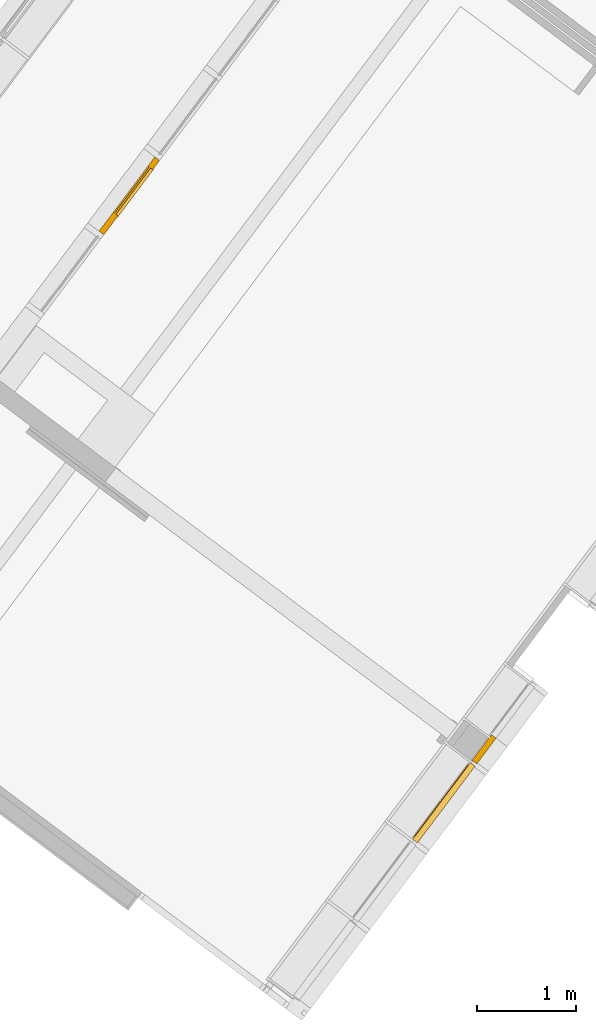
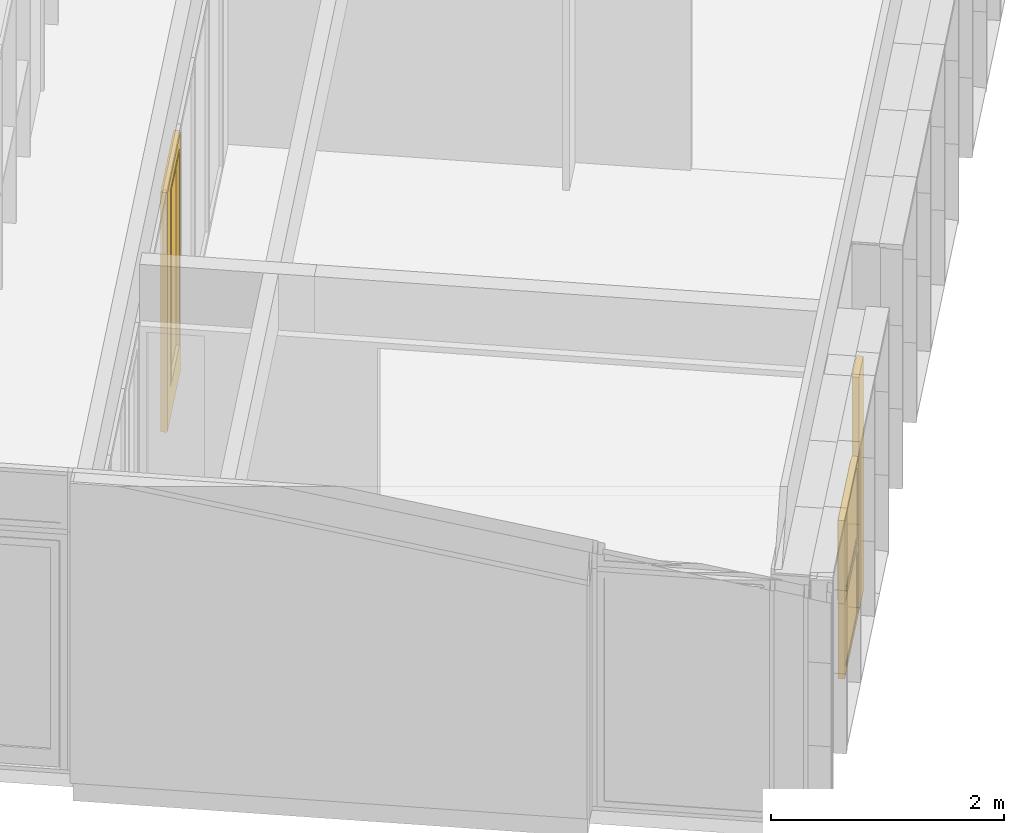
# One storey, part 181 of 243: 2 doors, 2 windows, 2 elements without a shape of their own.
"""IFC2X3 building model written with IfcOpenShell, lengths in metres."""

from ifc_helpers import new_model, entity, si_unit, converted_unit, derived_unit, direction, frame, origin, origin_2d_with_axis, place, context, subcontext, project, spatial, rectangle, extrude, faceted_brep, source, transform, mapped, material, material_list, type_object, type_shapes, element, aggregate, save


model = new_model("IFC2X3")

# Units and contexts
model_context = context("Model", 3, precision=1e-05, world=origin(), true_north=direction((6.123031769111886e-17, 1.0)))
body_context = subcontext(model_context, "Body", "Model", "MODEL_VIEW")
ifc_project = project(units=[si_unit("LENGTHUNIT", "METRE"), si_unit("AREAUNIT", "SQUARE_METRE"), si_unit("VOLUMEUNIT", "CUBIC_METRE"), converted_unit("PLANEANGLEUNIT", "DEGREE", entity("IfcRatioMeasure", 0.017453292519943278), si_unit("PLANEANGLEUNIT", "RADIAN"), dimensions=[0, 0, 0, 0, 0, 0, 0]), si_unit("MASSUNIT", "GRAM", prefix="KILO"), derived_unit("MASSDENSITYUNIT", [(si_unit("MASSUNIT", "GRAM", prefix="KILO"), 1), (si_unit("LENGTHUNIT", "METRE"), -3)]), derived_unit("IONCONCENTRATIONUNIT", [(si_unit("MASSUNIT", "GRAM", prefix="KILO"), 1), (si_unit("LENGTHUNIT", "METRE"), -3)]), derived_unit("MOMENTOFINERTIAUNIT", [(si_unit("LENGTHUNIT", "METRE"), 4)]), si_unit("TIMEUNIT", "SECOND"), si_unit("FREQUENCYUNIT", "HERTZ"), si_unit("THERMODYNAMICTEMPERATUREUNIT", "DEGREE_CELSIUS"), derived_unit("THERMALTRANSMITTANCEUNIT", [(si_unit("MASSUNIT", "GRAM", prefix="KILO"), 1), (si_unit("THERMODYNAMICTEMPERATUREUNIT", "KELVIN"), -1), (si_unit("TIMEUNIT", "SECOND"), -3)]), derived_unit("THERMALCONDUCTANCEUNIT", [(si_unit("MASSUNIT", "GRAM", prefix="KILO"), 1), (si_unit("THERMODYNAMICTEMPERATUREUNIT", "KELVIN"), -1), (si_unit("TIMEUNIT", "SECOND"), -3), (si_unit("LENGTHUNIT", "METRE"), 1)]), derived_unit("VOLUMETRICFLOWRATEUNIT", [(si_unit("LENGTHUNIT", "METRE"), 3), (si_unit("TIMEUNIT", "SECOND"), -1)]), derived_unit("MASSFLOWRATEUNIT", [(si_unit("MASSUNIT", "GRAM", prefix="KILO"), 1), (si_unit("TIMEUNIT", "SECOND"), -1)]), derived_unit("ROTATIONALFREQUENCYUNIT", [(si_unit("TIMEUNIT", "SECOND"), -1)]), si_unit("ELECTRICCURRENTUNIT", "AMPERE"), si_unit("ELECTRICVOLTAGEUNIT", "VOLT"), si_unit("POWERUNIT", "WATT"), si_unit("FORCEUNIT", "NEWTON", prefix="KILO"), si_unit("ILLUMINANCEUNIT", "LUX"), si_unit("LUMINOUSFLUXUNIT", "LUMEN"), si_unit("LUMINOUSINTENSITYUNIT", "CANDELA"), derived_unit("USERDEFINED", [(si_unit("MASSUNIT", "GRAM", prefix="KILO"), -1), (si_unit("LENGTHUNIT", "METRE"), -2), (si_unit("TIMEUNIT", "SECOND"), 3), (si_unit("LUMINOUSFLUXUNIT", "LUMEN"), 1)]), derived_unit("USERDEFINED", [(si_unit("MASSUNIT", "GRAM", prefix="KILO"), 1), (si_unit("TIMEUNIT", "SECOND"), -3), (si_unit("LENGTHUNIT", "METRE"), 3), (si_unit("ELECTRICCURRENTUNIT", "AMPERE"), -2)]), derived_unit("SOUNDPOWERUNIT", [(si_unit("MASSUNIT", "GRAM", prefix="KILO"), 1), (si_unit("TIMEUNIT", "SECOND"), -3), (si_unit("LENGTHUNIT", "METRE"), 2)]), derived_unit("SOUNDPRESSUREUNIT", [(si_unit("MASSUNIT", "GRAM", prefix="KILO"), 1), (si_unit("LENGTHUNIT", "METRE"), -1), (si_unit("TIMEUNIT", "SECOND"), -2)]), derived_unit("LINEARVELOCITYUNIT", [(si_unit("LENGTHUNIT", "METRE"), 1), (si_unit("TIMEUNIT", "SECOND"), -1)]), si_unit("PRESSUREUNIT", "PASCAL"), derived_unit("USERDEFINED", [(si_unit("MASSUNIT", "GRAM", prefix="KILO"), 1), (si_unit("LENGTHUNIT", "METRE"), -2), (si_unit("TIMEUNIT", "SECOND"), -2)]), derived_unit("LINEARFORCEUNIT", [(si_unit("MASSUNIT", "GRAM", prefix="KILO"), 1), (si_unit("TIMEUNIT", "SECOND"), -2)]), derived_unit("PLANARFORCEUNIT", [(si_unit("MASSUNIT", "GRAM", prefix="KILO"), 1), (si_unit("LENGTHUNIT", "METRE"), -1), (si_unit("TIMEUNIT", "SECOND"), -2)]), derived_unit("SPECIFICHEATCAPACITYUNIT", [(si_unit("THERMODYNAMICTEMPERATUREUNIT", "KELVIN"), -1), (si_unit("LENGTHUNIT", "METRE"), 2), (si_unit("TIMEUNIT", "SECOND"), -2)]), derived_unit("HEATINGVALUEUNIT", [(si_unit("LENGTHUNIT", "METRE"), 2), (si_unit("TIMEUNIT", "SECOND"), -2)]), derived_unit("VAPORPERMEABILITYUNIT", [(si_unit("LENGTHUNIT", "METRE"), -1), (si_unit("TIMEUNIT", "SECOND"), 1)]), derived_unit("DYNAMICVISCOSITYUNIT", [(si_unit("MASSUNIT", "GRAM", prefix="KILO"), 1), (si_unit("TIMEUNIT", "SECOND"), -1), (si_unit("LENGTHUNIT", "METRE"), -1)]), derived_unit("THERMALEXPANSIONCOEFFICIENTUNIT", [(si_unit("THERMODYNAMICTEMPERATUREUNIT", "KELVIN"), -1)]), derived_unit("MODULUSOFELASTICITYUNIT", [(si_unit("MASSUNIT", "GRAM", prefix="KILO"), 1), (si_unit("LENGTHUNIT", "METRE"), -1), (si_unit("TIMEUNIT", "SECOND"), -2)]), derived_unit("ISOTHERMALMOISTURECAPACITYUNIT", [(si_unit("LENGTHUNIT", "METRE"), 3), (si_unit("MASSUNIT", "GRAM", prefix="KILO"), -1)]), derived_unit("MOISTUREDIFFUSIVITYUNIT", [(si_unit("TIMEUNIT", "SECOND"), -1), (si_unit("LENGTHUNIT", "METRE"), 2)])], contexts=[model_context])

# Site, building, storey
site_placement = place(None, frame((0.0, 0.0, 235.0), z_axis=(0.0, 0.0, 1.0), x_axis=(-0.7996477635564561, 0.6004693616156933, 0.0)))
site = spatial("IfcSite", under=ifc_project, at=site_placement, Name="Default", CompositionType="ELEMENT")
building_placement = place(site_placement, origin())
building = spatial("IfcBuilding", under=site, at=building_placement, CompositionType="ELEMENT")
storey_placement = place(building_placement, origin())
storey = spatial("IfcBuildingStorey", under=building, at=storey_placement, Name="P0- Escola", CompositionType="ELEMENT", Elevation=0.0)

# Curtain wall, door
curtain_wall_type_1 = type_object("IfcCurtainWallType", Name="Muro cortina:MC- INT- a1", PredefinedType="NOTDEFINED")
curtain_wall_1_placement = place(storey_placement, origin())
curtain_wall_1 = element("IfcCurtainWall", 1, at=curtain_wall_1_placement, inside=storey, type_object=curtain_wall_type_1, Name="Muro cortina:MC- INT- a1", ObjectType="Muro cortina:MC- INT- a1")
ifc_material_1 = material(Name="_Fusta massisa- T1")
ifc_material_2 = material(Name="_Vidre")
ifc_material_list_1 = material_list([ifc_material_1, ifc_material_2])
door_style_1 = type_object("IfcDoorStyle", Name="MC- Fusta- conjunt porta:MC- Fusta- conjunt Porta aules", ConstructionType="NOTDEFINED", OperationType="NOTDEFINED", ParameterTakesPrecedence=False, Sizeable=False, material=ifc_material_list_1)
shared_shape_1 = source(origin(), body_context, "Body", "Brep", [
    faceted_brep([(-0.24500000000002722, -0.04499999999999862, 2.3950000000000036), (-0.24500000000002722, -0.014999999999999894, 2.3950000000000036), (-0.24500000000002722, -0.01499999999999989, 0.3299999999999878), (-0.24500000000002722, -0.04499999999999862, 0.3299999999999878), (0.37000000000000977, -0.01499999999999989, 0.3299999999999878), (0.37000000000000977, -0.04499999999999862, 0.3299999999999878), (0.37000000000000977, -0.01499999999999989, 2.3950000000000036), (0.37000000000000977, -0.04499999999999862, 2.3950000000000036), (-0.23000000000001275, -0.014999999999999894, 2.380000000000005), (-0.23000000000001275, -0.014999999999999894, 0.3449999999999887), (0.3549999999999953, -0.014999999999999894, 0.3449999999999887), (0.3549999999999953, -0.014999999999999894, 2.380000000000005), (-0.23000000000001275, -0.04499999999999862, 2.380000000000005), (0.3549999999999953, -0.04499999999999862, 2.380000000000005), (0.3549999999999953, -0.04499999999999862, 0.3449999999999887), (-0.23000000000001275, -0.04499999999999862, 0.3449999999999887)], [[[0, 1, 2, 3]], [[3, 2, 4, 5]], [[5, 4, 6, 7]], [[8, 9, 10, 11], [1, 6, 4, 2]], [[12, 13, 14, 15], [0, 3, 5, 7]], [[15, 9, 8, 12]], [[14, 10, 9, 15]], [[13, 11, 10, 14]], [[7, 6, 1, 0]], [[12, 8, 11, 13]]], outer=[[True], [True], [True], [False, True], [False, True], [True], [True], [True], [True], [True]]),
    faceted_brep([(-0.4399999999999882, 0.01999999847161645, 0.0), (0.4399999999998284, 0.019999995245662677, 0.0), (0.4399999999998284, -0.010000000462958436, 0.0), (0.4549999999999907, -0.010000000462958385, 0.0), (0.4549999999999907, -0.0399999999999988, 0.0), (-0.45500000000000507, -0.03999999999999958, 0.0), (-0.45500000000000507, -0.010000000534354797, 0.0), (-0.4399999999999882, -0.010000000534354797, 0.0), (-0.45500000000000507, -0.03999999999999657, 2.5050000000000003), (0.4549999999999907, -0.03999999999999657, 2.5050000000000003), (-0.2450000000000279, -0.039999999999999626, 0.3300000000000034), (-0.2450000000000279, -0.040000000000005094, 2.394999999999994), (0.3700000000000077, -0.0399999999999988, 2.394999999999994), (0.3700000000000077, -0.039999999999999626, 0.3300000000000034), (-0.4550000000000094, -0.010000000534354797, 2.5050000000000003), (0.4549999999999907, -0.010000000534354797, 2.5050000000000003), (-0.4399999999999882, 0.019999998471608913, 2.4899999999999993), (-0.4399999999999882, -0.010000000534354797, 2.4899999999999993), (0.4399999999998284, -0.010000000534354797, 2.4899999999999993), (0.4399999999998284, 0.019999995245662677, 2.4899999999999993), (0.3549999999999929, 0.019999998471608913, 0.3450000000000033), (0.3549999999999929, 0.019999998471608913, 2.379999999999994), (-0.2300000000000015, 0.019999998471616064, 2.379999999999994), (-0.2300000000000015, 0.019999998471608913, 0.3450000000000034), (-0.2300000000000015, 0.005000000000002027, 0.3450000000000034), (0.3549999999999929, 0.005000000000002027, 0.3450000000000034), (-0.2300000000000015, 0.005000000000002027, 2.379999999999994), (0.3549999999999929, 0.004999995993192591, 2.379999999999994), (0.3700000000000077, 0.005000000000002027, 0.3300000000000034), (0.3700000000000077, 0.005000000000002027, 2.394999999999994), (-0.24500000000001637, 0.005000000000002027, 2.394999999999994), (-0.2450000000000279, 0.005000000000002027, 0.3300000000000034), (-0.24500000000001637, 0.004999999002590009, 0.3300000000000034), (-0.24500000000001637, 0.004999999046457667, 2.394999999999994), (0.3549999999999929, 0.019999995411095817, 2.379999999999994), (-0.2300000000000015, 0.004999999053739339, 2.379999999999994), (0.3700000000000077, 0.004999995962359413, 2.394999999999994)], [[[0, 1, 2, 3, 4, 5, 6, 7]], [[8, 5, 4, 9], [10, 11, 12, 13]], [[8, 14, 6, 5]], [[15, 9, 4, 3]], [[16, 0, 7, 17]], [[14, 15, 3, 2, 18, 17, 7, 6]], [[18, 2, 1, 19]], [[20, 21, 22, 23], [16, 19, 1, 0]], [[23, 24, 25, 20]], [[23, 22, 26, 24]], [[25, 27, 21, 20]], [[24, 26, 27, 25], [28, 29, 30, 31]], [[13, 28, 32, 10]], [[31, 33, 11, 10]], [[13, 12, 29, 28]], [[9, 15, 14, 8]], [[17, 18, 19, 16]], [[34, 27, 35, 22]], [[11, 30, 36, 12]]], outer=[[True], [True, False], [True], [True], [True], [True], [True], [False, True], [True], [True], [True], [False, True], [True], [True], [True], [True], [True], [True], [True]]),
    faceted_brep([(0.3700000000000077, 0.004999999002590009, 0.3300000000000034), (0.3700000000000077, -0.0149999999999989, 0.3300000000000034), (-0.24500000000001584, -0.014999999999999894, 0.3300000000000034), (-0.24500000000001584, 0.004999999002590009, 0.3300000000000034), (0.3700000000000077, 0.004999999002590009, 2.3950000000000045), (-0.24500000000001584, 0.004999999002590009, 2.3950000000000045), (-0.24500000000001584, -0.014999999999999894, 2.3950000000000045), (0.3700000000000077, -0.0149999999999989, 2.3950000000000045)], [[[0, 1, 2, 3]], [[4, 0, 3, 5]], [[5, 3, 2, 6]], [[6, 2, 1, 7]], [[7, 1, 0, 4]], [[4, 5, 6, 7]]]),
    faceted_brep([(-0.46500000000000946, -0.03999999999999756, 0.0), (-0.46500000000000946, -0.035999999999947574, 0.0), (-0.469999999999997, -0.035999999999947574, 0.0), (-0.469999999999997, 0.016000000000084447, 0.0), (-0.46500000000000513, 0.016000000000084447, 0.0), (-0.46500000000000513, 0.02000000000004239, 0.0), (-0.44000000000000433, 0.02000000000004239, 0.0), (-0.44000000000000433, -0.00999999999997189, 0.0), (-0.4550000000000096, -0.00999999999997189, 0.0), (-0.4550000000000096, -0.03999999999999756, 0.0), (-0.45500000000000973, -0.03999999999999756, 2.5050000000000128), (0.45500000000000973, -0.03999999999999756, 2.5050000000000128), (0.45500000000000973, -0.03999999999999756, 0.0), (0.46500000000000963, -0.03999999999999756, 0.0), (0.46500000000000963, -0.03999999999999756, 2.5150000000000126), (-0.4650000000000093, -0.03999999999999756, 2.515000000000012), (-0.4550000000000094, -0.00999999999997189, 2.5050000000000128), (-0.4400000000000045, -0.00999999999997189, 2.4900000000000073), (0.4400000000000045, -0.00999999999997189, 2.4900000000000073), (0.4400000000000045, -0.00999999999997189, 0.0), (0.45500000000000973, -0.00999999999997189, 0.0), (0.45500000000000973, -0.00999999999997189, 2.5050000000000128), (-0.4400000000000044, 0.02000000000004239, 2.4900000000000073), (-0.4650000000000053, 0.02000000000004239, 2.515000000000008), (0.4650000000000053, 0.02000000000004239, 2.515000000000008), (0.4650000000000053, 0.02000000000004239, 0.0), (0.4400000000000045, 0.02000000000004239, 0.0), (0.4400000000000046, 0.02000000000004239, 2.4900000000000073), (-0.46500000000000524, 0.016000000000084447, 2.515000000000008), (-0.4699999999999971, 0.016000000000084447, 2.52), (0.4699999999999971, 0.016000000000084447, 2.52), (0.4699999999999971, 0.016000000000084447, 0.0), (0.4650000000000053, 0.016000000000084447, 0.0), (0.4650000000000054, 0.016000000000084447, 2.515000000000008), (-0.46999999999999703, -0.035999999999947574, 2.52), (-0.46500000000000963, -0.035999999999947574, 2.5150000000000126), (0.46500000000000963, -0.035999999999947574, 2.5150000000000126), (0.46500000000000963, -0.035999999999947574, 0.0), (0.4699999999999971, -0.035999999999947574, 0.0), (0.46999999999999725, -0.035999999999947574, 2.52)], [[[0, 1, 2, 3, 4, 5, 6, 7, 8, 9]], [[9, 10, 11, 12, 13, 14, 15, 0]], [[8, 16, 10, 9]], [[7, 17, 18, 19, 20, 21, 16, 8]], [[6, 22, 17, 7]], [[5, 23, 24, 25, 26, 27, 22, 6]], [[4, 28, 23, 5]], [[3, 29, 30, 31, 32, 33, 28, 4]], [[2, 34, 29, 3]], [[1, 35, 36, 37, 38, 39, 34, 2]], [[0, 15, 35, 1]], [[14, 13, 37, 36]], [[13, 12, 20, 19, 26, 25, 32, 31, 38, 37]], [[21, 20, 12, 11]], [[27, 26, 19, 18]], [[33, 32, 25, 24]], [[39, 38, 31, 30]], [[16, 21, 11, 10]], [[22, 27, 18, 17]], [[28, 33, 24, 23]], [[34, 39, 30, 29]], [[15, 14, 36, 35]]]),
])
type_shapes(door_style_1, [shared_shape_1])
door_1_placement = place(curtain_wall_1_placement, frame((72.720147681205, -25.915189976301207, 0.0), z_axis=(0.0, 0.0, 1.0), x_axis=(0.0, -1.0, 0.0)))
door_1 = element("IfcDoor", 2, at=door_1_placement, type_object=door_style_1, material=ifc_material_list_1, Name="MC- Fusta- conjunt porta:MC- Fusta- conjunt Porta aules", ObjectType="MC- Fusta- conjunt porta:MC- Fusta- conjunt Porta aules", OverallHeight=2.52, OverallWidth=0.9399999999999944, context=body_context, shape_type="MappedRepresentation", body=[
    mapped(shared_shape_1, transform((0.0, 0.0, 0.0), scale=1.0)),
])
aggregate(curtain_wall_1, [door_1])

# Curtain wall, windows, door
curtain_wall_type_2 = type_object("IfcCurtainWallType", Name="Muro cortina:MC- EXT- MC2", PredefinedType="NOTDEFINED")
curtain_wall_2_placement = place(storey_placement, origin())
curtain_wall_2 = element("IfcCurtainWall", 3, at=curtain_wall_2_placement, inside=storey, type_object=curtain_wall_type_2, Name="Muro cortina:MC- EXT- MC2", ObjectType="Muro cortina:MC- EXT- MC2")
ifc_material_3 = material(Name="_Alumini- T1- Perfil")
ifc_material_list_2 = material_list([ifc_material_2, ifc_material_3])
window_style_1 = type_object("IfcWindowStyle", Name="MC- Alu- Conjunt vidre fix- 62x60 cm:MC- Alu- Conjunt vidre fix- 62x60 cm", ConstructionType="NOTDEFINED", OperationType="NOTDEFINED", ParameterTakesPrecedence=False, Sizeable=False, material=ifc_material_list_2)
shared_shape_2 = source(origin(), body_context, "Body", "Brep", [
    faceted_brep([(0.4361932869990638, -0.007600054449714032, 0.048806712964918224), (0.4361932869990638, -0.03160022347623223, 0.048806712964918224), (-0.4361932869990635, -0.03160022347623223, 0.048806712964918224), (-0.4361932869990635, -0.007600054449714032, 0.048806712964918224), (0.4361932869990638, -0.007600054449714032, 0.7387000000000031), (-0.4361932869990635, -0.007600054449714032, 0.7387000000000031), (-0.4361932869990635, -0.03160022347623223, 0.7387000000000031), (0.4361932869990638, -0.03160022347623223, 0.7387000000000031)], [[[0, 1, 2, 3]], [[4, 0, 3, 5]], [[5, 3, 2, 6]], [[6, 2, 1, 7]], [[7, 1, 0, 4]], [[4, 5, 6, 7]]]),
    faceted_brep([(0.48499999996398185, -0.05999999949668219, 0.7877000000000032), (0.48499999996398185, -0.05999999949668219, 0.0), (0.48499999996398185, 0.0, 0.0), (0.48499999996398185, 0.0, 0.787700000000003), (-0.48499999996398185, 0.0, 0.7877000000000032), (-0.48499999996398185, 0.0, 0.0), (0.4221931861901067, 0.0, 0.7248931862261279), (-0.42219318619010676, 0.0, 0.724893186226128), (-0.4221931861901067, 0.0, 0.0628068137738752), (0.4221931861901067, 0.0, 0.06280681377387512), (-0.48499999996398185, -0.05999999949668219, 0.0), (-0.48499999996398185, -0.05999999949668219, 0.7877000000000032), (-0.42219603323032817, -0.05999999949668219, 0.7248960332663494), (0.42219603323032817, -0.05999999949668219, 0.7248960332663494), (0.42219603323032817, -0.05999999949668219, 0.0628039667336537), (-0.42219603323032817, -0.05999999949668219, 0.0628039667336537), (0.4221960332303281, -0.03160022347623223, 0.7248960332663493), (0.42219603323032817, -0.03160022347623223, 0.0628039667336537), (-0.42219603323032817, -0.03160022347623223, 0.06280396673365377), (-0.42219603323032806, -0.03160022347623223, 0.7248960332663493), (-0.43619328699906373, -0.03160022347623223, 0.738893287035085), (0.43619328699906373, -0.03160022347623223, 0.738893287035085), (0.43619328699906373, -0.03160022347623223, 0.048806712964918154), (-0.43619328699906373, -0.03160022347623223, 0.04880671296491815), (0.43619328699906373, -0.007600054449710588, 0.738893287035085), (0.43619328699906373, -0.007600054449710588, 0.04880671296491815), (-0.43619328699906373, -0.007600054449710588, 0.048806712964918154), (-0.43619328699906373, -0.007600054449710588, 0.738893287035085), (-0.42219318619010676, -0.007600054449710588, 0.724893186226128), (0.42219318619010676, -0.007600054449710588, 0.724893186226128), (0.42219318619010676, -0.007600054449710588, 0.06280681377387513), (-0.42219318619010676, -0.007600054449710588, 0.06280681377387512)], [[[0, 1, 2, 3]], [[4, 3, 2, 5], [6, 7, 8, 9]], [[1, 10, 5, 2]], [[0, 11, 10, 1], [12, 13, 14, 15]], [[16, 17, 14, 13]], [[17, 18, 15, 14]], [[16, 19, 18, 17], [20, 21, 22, 23]], [[24, 25, 22, 21]], [[25, 26, 23, 22]], [[24, 27, 26, 25], [28, 29, 30, 31]], [[6, 9, 30, 29]], [[9, 8, 31, 30]], [[10, 11, 4, 5]], [[18, 19, 12, 15]], [[26, 27, 20, 23]], [[8, 7, 28, 31]], [[11, 0, 3, 4]], [[19, 16, 13, 12]], [[27, 24, 21, 20]], [[7, 6, 29, 28]]], outer=[[True], [True, False], [True], [True, False], [True], [True], [False, True], [True], [True], [True, False], [True], [True], [True], [True], [True], [True], [True], [True], [True], [True]]),
])
type_shapes(window_style_1, [shared_shape_2])
window_1_placement = place(curtain_wall_2_placement, frame((66.44514768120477, -22.915191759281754, 0.03229999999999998), z_axis=(0.0, 0.0, 1.0), x_axis=(0.0, 1.0, 0.0)))
window_1 = element("IfcWindow", 4, at=window_1_placement, type_object=window_style_1, material=ifc_material_list_2, Name="MC- Alu- Conjunt vidre fix- 62x60 cm:MC- Alu- Conjunt vidre fix- 62x60 cm", ObjectType="MC- Alu- Conjunt vidre fix- 62x60 cm:MC- Alu- Conjunt vidre fix- 62x60 cm", OverallHeight=0.7877000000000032, OverallWidth=0.9699999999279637, context=body_context, shape_type="MappedRepresentation", body=[
    mapped(shared_shape_2, transform((0.0, 0.0, 0.0), scale=1.0)),
])
ifc_material_4 = material(Name="_Aillament")
ifc_material_list_3 = material_list([ifc_material_3, ifc_material_4])
door_style_2 = type_object("IfcDoorStyle", Name="MC- Alu- panell especific xapa:MC- Alu- panell especific xapa", ConstructionType="NOTDEFINED", OperationType="NOTDEFINED", ParameterTakesPrecedence=False, Sizeable=False, material=ifc_material_list_3)
shared_shape_3 = source(origin(), body_context, "Body", "SweptSolid", [
    extrude(rectangle(XDim=0.005999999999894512, YDim=0.32412629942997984, at=origin_2d_with_axis()), frame((0.0, -0.057000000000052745, 0.0), z_axis=(0.0, 0.0, 1.0), x_axis=(0.0, -1.0, 0.0)), (0.0, 0.0, 1.0), 2.471449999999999),
    extrude(rectangle(XDim=0.32412629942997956, YDim=0.048000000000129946, at=origin_2d_with_axis()), frame((0.0, -0.030000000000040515, 0.0)), (0.0, 0.0, 1.0), 2.471449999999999),
    extrude(rectangle(XDim=0.005999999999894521, YDim=0.3241262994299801, at=origin_2d_with_axis()), frame((0.0, -0.003000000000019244, 0.0), z_axis=(0.0, 0.0, 1.0), x_axis=(0.0, -1.0, 0.0)), (0.0, 0.0, 1.0), 2.471449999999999),
])
type_shapes(door_style_2, [shared_shape_3])
door_2_placement = place(curtain_wall_2_placement, frame((66.44514768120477, -23.59225490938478, 0.03229999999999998), z_axis=(0.0, 0.0, 1.0), x_axis=(0.0, 1.0, 0.0)))
door_2 = element("IfcDoor", 5, at=door_2_placement, type_object=door_style_2, material=ifc_material_list_3, Name="MC- Alu- panell especific xapa:MC- Alu- panell especific xapa", ObjectType="MC- Alu- panell especific xapa:MC- Alu- panell especific xapa", OverallHeight=2.471449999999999, OverallWidth=0.3241262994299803, context=body_context, shape_type="MappedRepresentation", body=[
    mapped(shared_shape_3, transform((0.0, 0.0, 0.0), scale=1.0)),
])
window_style_2 = type_object("IfcWindowStyle", Name="MC- Alu- Conjunt finestra basculant- 68x68 cm:MC- Alu- Conjunt finestra basculant- 68x68 cm", ConstructionType="NOTDEFINED", OperationType="NOTDEFINED", ParameterTakesPrecedence=False, Sizeable=False, material=ifc_material_list_2)
shared_shape_4 = source(origin(), body_context, "Body", "Brep", [
    faceted_brep([(0.43291170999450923, -0.03559830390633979, 0.051999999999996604), (-0.43291170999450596, -0.03559830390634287, 0.051999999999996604), (-0.43291170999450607, -0.011598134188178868, 0.051999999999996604), (0.43291170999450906, -0.011598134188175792, 0.051999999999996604), (0.43291170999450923, -0.035598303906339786, 0.8228027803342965), (0.43291170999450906, -0.011598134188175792, 0.8228027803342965), (-0.43291170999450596, -0.011598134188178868, 0.8228027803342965), (-0.43291170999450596, -0.03559830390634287, 0.8228027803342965)], [[[0, 1, 2, 3]], [[4, 0, 3, 5]], [[5, 3, 2, 6]], [[6, 2, 1, 7]], [[7, 1, 0, 4]], [[4, 5, 6, 7]]]),
    faceted_brep([(-0.4172108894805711, -0.009998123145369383, 0.8071019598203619), (-0.4172108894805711, -0.00999812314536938, 0.06789804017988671), (-0.4172108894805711, -0.007998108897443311, 0.06789804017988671), (-0.4172108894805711, -0.007998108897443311, 0.8071019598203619), (-0.44610892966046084, -0.007998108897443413, 0.8360000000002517), (0.44610892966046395, -0.007998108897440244, 0.8360000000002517), (0.44610892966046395, -0.007998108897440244, 0.03899999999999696), (-0.44610892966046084, -0.007998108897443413, 0.03899999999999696), (0.4172108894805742, -0.007998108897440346, 0.8071019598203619), (0.4172108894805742, -0.007998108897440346, 0.06789804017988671), (0.4172108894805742, -0.009998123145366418, 0.06789804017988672), (0.4172108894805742, -0.009998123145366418, 0.8071019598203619), (0.4329117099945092, -0.00999812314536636, 0.8228027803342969), (-0.43291170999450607, -0.009998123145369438, 0.8228027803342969), (-0.43291170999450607, -0.009998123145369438, 0.05219721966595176), (0.4329117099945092, -0.00999812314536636, 0.052197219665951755), (-0.4329117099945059, -0.04079986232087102, 0.8228027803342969), (-0.4329117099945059, -0.04079986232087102, 0.052197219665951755), (0.4329117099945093, -0.04079986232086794, 0.05219721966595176), (0.4329117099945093, -0.04079986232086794, 0.8228027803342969), (0.41721088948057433, -0.040799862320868, 0.8071019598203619), (-0.41721088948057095, -0.04079986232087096, 0.8071019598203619), (-0.41721088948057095, -0.04079986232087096, 0.06789804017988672), (0.41721088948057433, -0.040799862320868, 0.06789804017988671), (-0.4172108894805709, -0.06800005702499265, 0.8071019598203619), (-0.4172108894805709, -0.06800005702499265, 0.06789804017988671), (0.4172108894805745, -0.0680000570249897, 0.06789804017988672), (0.4172108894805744, -0.0680000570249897, 0.8071019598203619), (0.4636128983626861, -0.06800005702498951, 0.8535039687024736), (-0.4636128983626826, -0.06800005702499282, 0.8535039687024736), (-0.4636128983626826, -0.06800005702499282, 0.021496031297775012), (0.4636128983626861, -0.06800005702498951, 0.021496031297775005), (-0.4636128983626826, -0.0645000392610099, 0.8535039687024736), (-0.4636128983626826, -0.06450003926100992, 0.021496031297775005), (0.4636128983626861, -0.06450003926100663, 0.021496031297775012), (0.4636128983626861, -0.06450003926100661, 0.8535039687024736), (0.44610892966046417, -0.06450003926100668, 0.8360000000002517), (-0.4461089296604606, -0.06450003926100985, 0.8360000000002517), (-0.4461089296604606, -0.06450003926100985, 0.03899999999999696), (0.44610892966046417, -0.06450003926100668, 0.038999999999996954)], [[[0, 1, 2, 3]], [[4, 5, 6, 7], [8, 3, 2, 9]], [[1, 10, 9, 2]], [[0, 11, 10, 1], [12, 13, 14, 15]], [[16, 17, 14, 13]], [[17, 18, 15, 14]], [[16, 19, 18, 17], [20, 21, 22, 23]], [[24, 25, 22, 21]], [[25, 26, 23, 22]], [[24, 27, 26, 25], [28, 29, 30, 31]], [[32, 33, 30, 29]], [[33, 34, 31, 30]], [[32, 35, 34, 33], [36, 37, 38, 39]], [[4, 7, 38, 37]], [[7, 6, 39, 38]], [[10, 11, 8, 9]], [[18, 19, 12, 15]], [[26, 27, 20, 23]], [[34, 35, 28, 31]], [[6, 5, 36, 39]], [[11, 0, 3, 8]], [[19, 16, 13, 12]], [[27, 24, 21, 20]], [[35, 32, 29, 28]], [[5, 4, 37, 36]]], outer=[[True], [True, False], [True], [False, True], [True], [True], [True, False], [True], [True], [False, True], [True], [True], [True, False], [True], [True], [True], [True], [True], [True], [True], [True], [True], [True], [True], [True]]),
    faceted_brep([(0.42219318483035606, 0.0, 0.8121931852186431), (0.42219318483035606, 0.0, 0.06280681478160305), (0.42219318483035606, -0.0040000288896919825, 0.06280681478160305), (0.42219318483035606, -0.0040000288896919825, 0.8121931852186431), (-0.42219318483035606, -0.0040000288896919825, 0.8121931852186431), (-0.42219318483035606, -0.0040000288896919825, 0.06280681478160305), (0.4575998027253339, -0.0040000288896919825, 0.8475998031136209), (-0.4575998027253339, -0.0040000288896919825, 0.8475998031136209), (-0.4575998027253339, -0.0040000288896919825, 0.027400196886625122), (0.4575998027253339, -0.0040000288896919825, 0.02740019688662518), (-0.42219318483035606, 0.0, 0.06280681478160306), (-0.42219318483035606, 0.0, 0.8121931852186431), (-0.48499999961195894, 0.0, 0.875000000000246), (0.48499999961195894, 0.0, 0.875000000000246), (0.48499999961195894, 0.0, 0.0), (-0.48499999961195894, 0.0, 0.0), (0.48499999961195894, -0.05999999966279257, 0.875000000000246), (0.48499999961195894, -0.05999999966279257, 0.0), (-0.48499999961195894, -0.05999999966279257, 0.0), (-0.48499999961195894, -0.05999999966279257, 0.875000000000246), (-0.4575998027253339, -0.05999999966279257, 0.8475998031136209), (0.4575998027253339, -0.05999999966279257, 0.8475998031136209), (0.4575998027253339, -0.05999999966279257, 0.027400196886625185), (-0.4575998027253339, -0.05999999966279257, 0.02740019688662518)], [[[0, 1, 2, 3]], [[4, 3, 2, 5], [6, 7, 8, 9]], [[1, 10, 5, 2]], [[0, 11, 10, 1], [12, 13, 14, 15]], [[16, 17, 14, 13]], [[17, 18, 15, 14]], [[16, 19, 18, 17], [20, 21, 22, 23]], [[6, 9, 22, 21]], [[9, 8, 23, 22]], [[10, 11, 4, 5]], [[18, 19, 12, 15]], [[8, 7, 20, 23]], [[11, 0, 3, 4]], [[19, 16, 13, 12]], [[7, 6, 21, 20]]], outer=[[True], [False, True], [True], [False, True], [True], [True], [True, False], [True], [True], [True], [True], [True], [True], [True], [True]]),
])
type_shapes(window_style_2, [shared_shape_4])
window_2_placement = place(curtain_wall_2_placement, frame((66.44514768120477, -22.915191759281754, 0.8200000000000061), z_axis=(0.0, 0.0, 1.0), x_axis=(0.0, 1.0, 0.0)))
window_2 = element("IfcWindow", 6, at=window_2_placement, type_object=window_style_2, material=ifc_material_list_2, Name="MC- Alu- Conjunt finestra basculant- 68x68 cm:MC- Alu- Conjunt finestra basculant- 68x68 cm", ObjectType="MC- Alu- Conjunt finestra basculant- 68x68 cm:MC- Alu- Conjunt finestra basculant- 68x68 cm", OverallHeight=0.8750000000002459, OverallWidth=0.9699999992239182, context=body_context, shape_type="MappedRepresentation", body=[
    mapped(shared_shape_4, transform((0.0, 0.0, 0.0), scale=1.0)),
])
aggregate(curtain_wall_2, [window_1, door_2, window_2])

save(model, "model.ifc")
